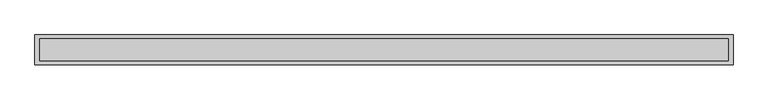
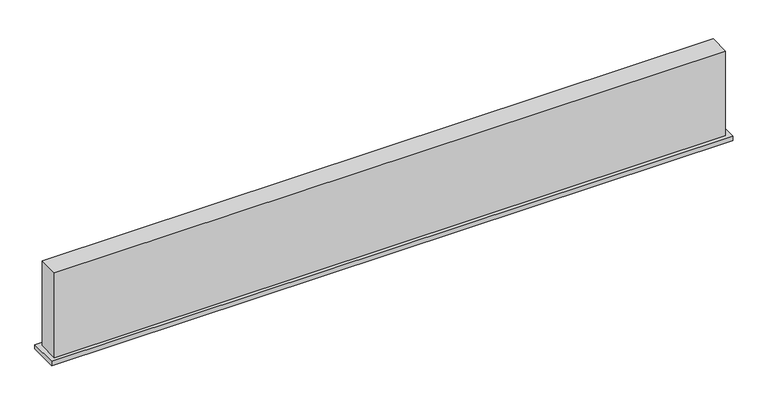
"""IFC4 building model written with IfcOpenShell, lengths in millimetres: air terminal geometry, 033_線状吹出口_BL : BL-S."""

from ifc_helpers import new_model, si_unit, frame, origin, origin_with_axes, place, context, project, spatial, polyline, outline, extrude, source, transform, mapped, element, save


def air_terminal_e2e5e5e0(model_context):
    return source(origin(), model_context, "Body", "SweptSolid", [
        extrude(outline(polyline([(761.0, -32.5), (-761.0, -32.5), (-761.0, 32.5), (761.0, 32.5), (761.0, -32.5)]), holes=[polyline([(750.0, -24.0), (750.0, 24.0), (-750.0, 24.0), (-750.0, -24.0), (750.0, -24.0)])]), frame((0.0, 0.0, -10.0), z_axis=(0.0, 0.0, 1.0), x_axis=(1.0, 0.0, 0.0)), (0.0, 0.0, 1.0), 10.0),
        extrude(outline(polyline([(750.0, 24.0), (750.0, -24.0), (-750.0, -24.0), (-750.0, 24.0), (750.0, 24.0)])), origin_with_axes(), (0.0, 0.0, 1.0), 200.0),
    ])


if __name__ == "__main__":
    model = new_model("IFC4")
    model_context = context("Model", 3, world=origin())
    ifc_project = project(units=[si_unit("LENGTHUNIT", "METRE", prefix="MILLI")], contexts=[model_context])
    site = spatial("IfcSite", under=ifc_project)
    building = spatial("IfcBuilding", under=site)
    placement = place(None, origin())
    air_terminal_shape = air_terminal_e2e5e5e0(model_context)
    element("IfcAirTerminal", 1, ObjectType="033_線状吹出口_BL : BL-S", at=placement, inside=building, context=model_context, shape_type="MappedRepresentation", body=[
        mapped(air_terminal_shape, transform((0.0, 0.0, 0.0), x_axis=(1.0, 0.0, 0.0), y_axis=(0.0, 1.0, 0.0), z_axis=(0.0, 0.0, 1.0))),
    ])
    save(model, "model.ifc")
